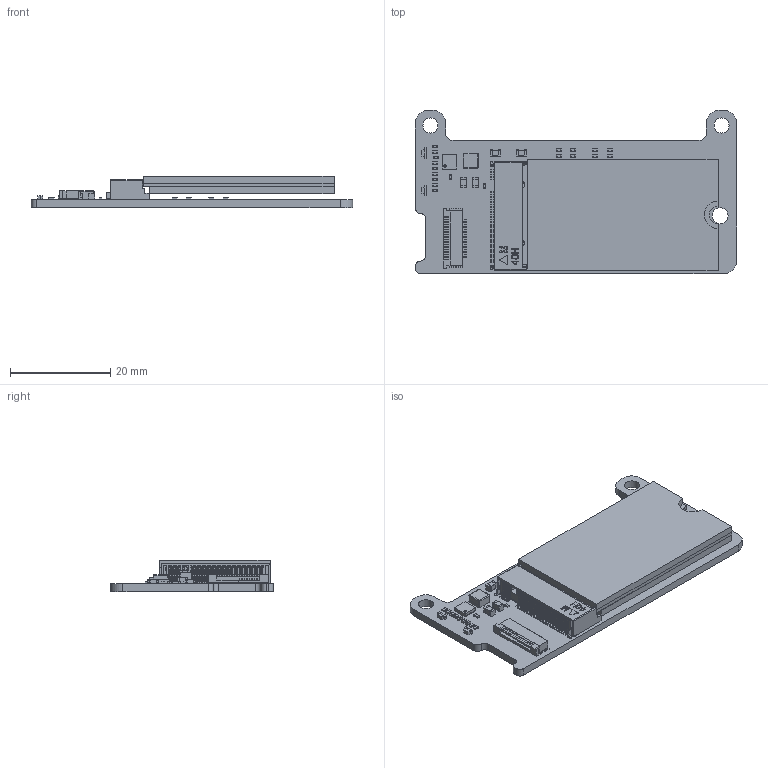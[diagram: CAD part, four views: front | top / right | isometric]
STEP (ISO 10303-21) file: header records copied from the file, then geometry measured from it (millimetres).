
FILE_DESCRIPTION(('KiCad electronic assembly'),'2;1');
FILE_NAME('KAmod-RPI5-M2-mini_w_mod.step','2024-10-15T12:43:42',( 'Pcbnew'),('Kicad'),'Open CASCADE STEP processor 7.8', 'KiCad to STEP converter','Unknown');
FILE_SCHEMA(('AUTOMOTIVE_DESIGN { 1 0 10303 214 1 1 1 1 }'));
Length unit declared in the file: millimetre
Products named in the file (20): KAmod-RPI5-M2-mini_w_mod 1; C_0805_2012Metric; R_0402_1005Metric; LED_0603_1608Metric; C_0402_1005Metric; L_Cenker_CKCS3015; 2242_B_M; Part; 123A-40M00_C_1; TE_1-84953-6_1x16-1MP_P1.0mm_Horizontal; TE_1_84953_6; DFN-8-1EP_3x3mm_P0.65mm_EP1.55x2.4mm; DFN-8-1EP_3x3mm_Pitch0.65mm; _autosave-KAmod-RPI5-M2-mini_BigHoles_PCB
Assembly tree (40 placements, depth 3):
  KAmod-RPI5-M2-mini_w_mod 1
    C_0805_2012Metric  x4
      C_0805_2012Metric
    R_0402_1005Metric  x17
      R_0402_1005Metric
    LED_0603_1608Metric  x2
      LED_0603_1608Metric
    C_0402_1005Metric  x2
      C_0402_1005Metric
    L_Cenker_CKCS3015
      L_Cenker_CKCS3015
    2242_B_M
      Part
    123A-40M00_C_1
      123A-40M00_C_1
    TE_1-84953-6_1x16-1MP_P1.0mm_Horizontal
      TE_1_84953_6
    DFN-8-1EP_3x3mm_P0.65mm_EP1.55x2.4mm
      DFN-8-1EP_3x3mm_Pitch0.65mm
    _autosave-KAmod-RPI5-M2-mini_BigHoles_PCB
Bounding box: 64 x 32.5 x 6.3 mm (x, y, z)
Volume: 5863.9 mm3; surface area: 11494.7 mm2
Topology: 96 solids, 96 shells, 8481 faces, 24342 edges, 15945 vertices
Faces by surface type: plane 6399, cylinder 1694, bspline 380, sphere 4, cone 4
Full cylindrical faces by diameter (mm): 0.5 x1, 1.2 x1, 1.6 x1, 3 x2, 3.2 x2
Entity records: 259620 total; most frequent: CARTESIAN_POINT 48236, ORIENTED_EDGE 45658, DIRECTION 40042, EDGE_CURVE 22829, LINE 18776, VECTOR 18776, VERTEX_POINT 14963, AXIS2_PLACEMENT_3D 10633
